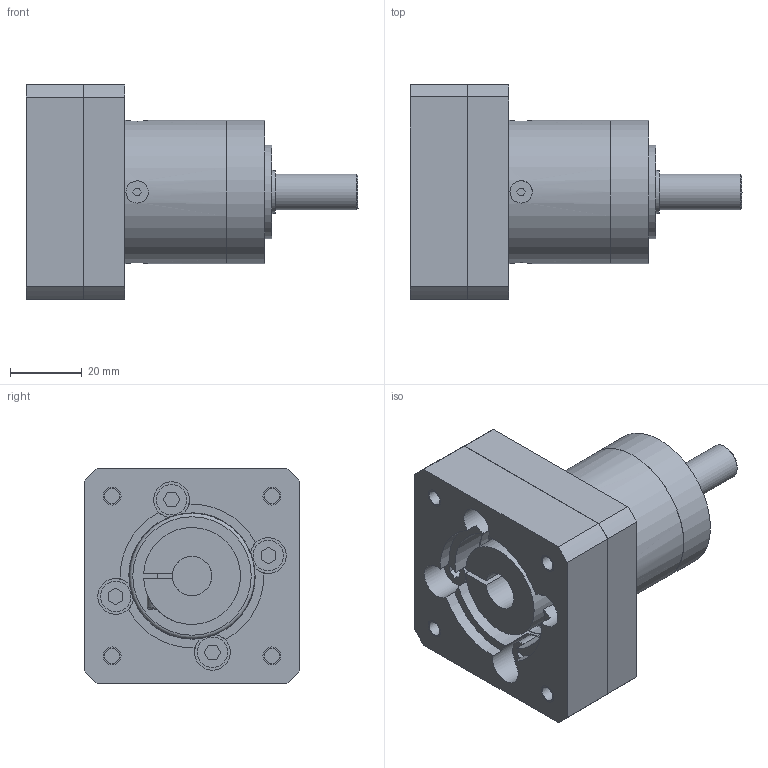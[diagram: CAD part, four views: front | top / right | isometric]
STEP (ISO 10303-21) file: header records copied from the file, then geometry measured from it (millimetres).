
FILE_DESCRIPTION(/* description */ (''),/* implementation_level */ '2;1');
FILE_NAME(/* name */ 'D:\InventorWorkspace2017\CAD\Projekte_EDEM\HLR\Zubehörteile\PE2-005-16M040_063_11_23.stp',/* time_stamp */ '2019-02-13T12:02:58+01:00',/* author */ ('544672'),/* organization */ (''),/* preprocessor_version */ 'ST-DEVELOPER v16.5',/* originating_system */ 'Autodesk Inventor 2017',/* authorisation */ '');
FILE_SCHEMA (('AUTOMOTIVE_DESIGN { 1 0 10303 214 3 1 1 }'));
Length unit declared in the file: millimetre
Products named in the file (1): PLE040-1Stuf-11/23/40/63_SMH60
Bounding box: 92.5 x 60 x 60 mm (x, y, z)
Volume: 134002 mm3; surface area: 28476.3 mm2
Topology: 1 solids, 10 shells, 190 faces, 430 edges, 284 vertices
Faces by surface type: plane 128, cylinder 59, torus 2, cone 1
Full cylindrical faces by diameter (mm): 3.4 x4, 4 x4, 4.2 x4, 5 x4, 7 x1, 8 x1, 8.5 x4, 10 x1, 11 x1, 12 x1, 19 x1, 26 x1, 30 x1, 35 x2, 35.2 x1, 39.9 x1, 40 x1
Entity records: 5350 total; most frequent: CARTESIAN_POINT 1035, DIRECTION 891, ORIENTED_EDGE 752, EDGE_CURVE 384, AXIS2_PLACEMENT_3D 325, VERTEX_POINT 275, EDGE_LOOP 269, LINE 241
